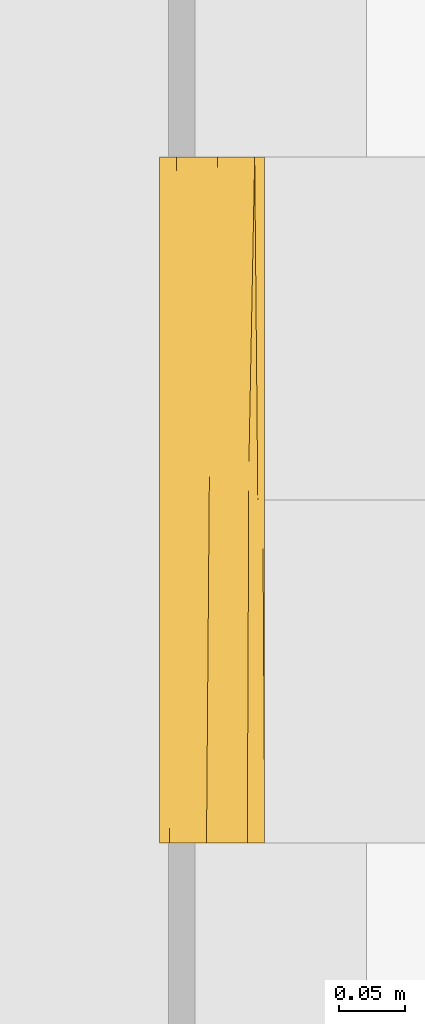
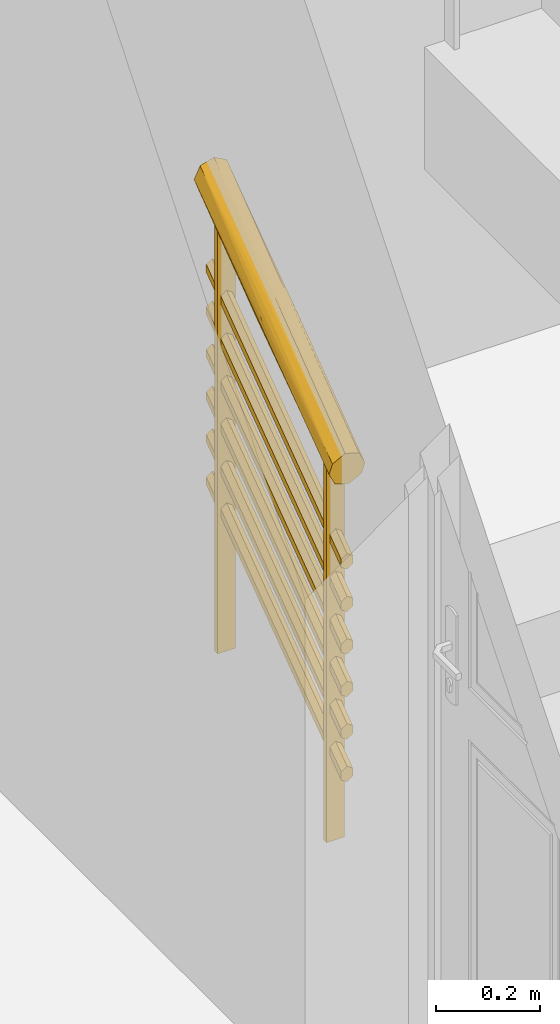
# One storey, part 15 of 20: 1 railing, 1 element without a shape of its own.
"""IFC2X3 building model written with IfcOpenShell, lengths in metres."""

from ifc_helpers import new_model, entity, si_unit, converted_unit, derived_unit, direction, frame, origin, place, context, subcontext, project, spatial, faceted_brep, element, aggregate, save


model = new_model("IFC2X3")

# Units and contexts
model_context = context("Model", 3, precision=1e-05, world=origin(), true_north=direction((6.12303176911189e-17, 1.0)))
body_context = subcontext(model_context, "Body", "Model", "MODEL_VIEW")
ifc_project = project(units=[si_unit("LENGTHUNIT", "METRE"), si_unit("AREAUNIT", "SQUARE_METRE"), si_unit("VOLUMEUNIT", "CUBIC_METRE"), converted_unit("PLANEANGLEUNIT", "DEGREE", entity("IfcRatioMeasure", 0.0174532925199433), si_unit("PLANEANGLEUNIT", "RADIAN"), dimensions=[0, 0, 0, 0, 0, 0, 0]), si_unit("MASSUNIT", "GRAM", prefix="KILO"), derived_unit("MASSDENSITYUNIT", [(si_unit("MASSUNIT", "GRAM", prefix="KILO"), 1), (si_unit("LENGTHUNIT", "METRE"), -3)]), derived_unit("MOMENTOFINERTIAUNIT", [(si_unit("LENGTHUNIT", "METRE"), 4)]), si_unit("TIMEUNIT", "SECOND"), si_unit("FREQUENCYUNIT", "HERTZ"), si_unit("THERMODYNAMICTEMPERATUREUNIT", "DEGREE_CELSIUS"), derived_unit("THERMALTRANSMITTANCEUNIT", [(si_unit("MASSUNIT", "GRAM", prefix="KILO"), 1), (si_unit("THERMODYNAMICTEMPERATUREUNIT", "KELVIN"), -1), (si_unit("TIMEUNIT", "SECOND"), -3)]), derived_unit("VOLUMETRICFLOWRATEUNIT", [(si_unit("LENGTHUNIT", "METRE"), 3), (si_unit("TIMEUNIT", "SECOND"), -1)]), si_unit("ELECTRICCURRENTUNIT", "AMPERE"), si_unit("ELECTRICVOLTAGEUNIT", "VOLT"), si_unit("POWERUNIT", "WATT"), si_unit("FORCEUNIT", "NEWTON", prefix="KILO"), si_unit("ILLUMINANCEUNIT", "LUX"), si_unit("LUMINOUSFLUXUNIT", "LUMEN"), si_unit("LUMINOUSINTENSITYUNIT", "CANDELA"), derived_unit("USERDEFINED", [(si_unit("MASSUNIT", "GRAM", prefix="KILO"), -1), (si_unit("LENGTHUNIT", "METRE"), -2), (si_unit("TIMEUNIT", "SECOND"), 3), (si_unit("LUMINOUSFLUXUNIT", "LUMEN"), 1)]), derived_unit("LINEARVELOCITYUNIT", [(si_unit("LENGTHUNIT", "METRE"), 1), (si_unit("TIMEUNIT", "SECOND"), -1)]), si_unit("PRESSUREUNIT", "PASCAL"), derived_unit("USERDEFINED", [(si_unit("LENGTHUNIT", "METRE"), -2), (si_unit("MASSUNIT", "GRAM", prefix="KILO"), 1), (si_unit("TIMEUNIT", "SECOND"), -2)]), derived_unit("LINEARFORCEUNIT", [(si_unit("MASSUNIT", "GRAM", prefix="KILO"), 1), (si_unit("LENGTHUNIT", "METRE"), 1), (si_unit("TIMEUNIT", "SECOND"), -2), (si_unit("LENGTHUNIT", "METRE"), -1)]), derived_unit("PLANARFORCEUNIT", [(si_unit("MASSUNIT", "GRAM", prefix="KILO"), 1), (si_unit("LENGTHUNIT", "METRE"), 1), (si_unit("TIMEUNIT", "SECOND"), -2), (si_unit("LENGTHUNIT", "METRE"), -2)])], contexts=[model_context])

# Site, building, storey
site_placement = place(None, origin())
site = spatial("IfcSite", under=ifc_project, at=site_placement, Name="Surface", CompositionType="ELEMENT")
building_placement = place(site_placement, origin())
building = spatial("IfcBuilding", under=site, at=building_placement, CompositionType="ELEMENT")
storey_placement = place(building_placement, origin())
storey = spatial("IfcBuildingStorey", under=building, at=storey_placement, Name="Niveau rdc", CompositionType="ELEMENT", Elevation=-1.94916083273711e-14)

# Stair, railing
stair_placement = place(storey_placement, origin())
stair = element("IfcStair", 1, at=stair_placement, inside=storey, Name="Escalier coulé sur place:Escalier", ObjectType="Escalier coulé sur place:Monobloc", ShapeType="NOTDEFINED")
railing_placement = place(stair_placement, frame((1.85578458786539, 5.44723837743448, 0.189285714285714)))
railing = element("IfcRailing", 2, at=railing_placement, Name="Garde-corps:Type Bateau", ObjectType="Garde-corps:Type Bateau", PredefinedType="NOTDEFINED", context=body_context, shape_type="Brep", body=[
    faceted_brep([(0.0615952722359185, 0.476000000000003, 1.20487235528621), (0.0215952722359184, 0.476000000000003, 1.20487235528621), (0.0215952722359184, 0.464000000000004, 1.20487235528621), (0.0615952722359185, 0.464000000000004, 1.20487235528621), (0.0615952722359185, 0.476000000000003, 0.189285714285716), (0.0615952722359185, 0.464000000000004, 0.189285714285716), (0.0215952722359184, 0.464000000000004, 0.189285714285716), (0.0215952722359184, 0.476000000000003, 0.189285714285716)], [[[0, 1, 2, 3]], [[4, 5, 6, 7]], [[3, 5, 4, 0]], [[2, 6, 5, 3]], [[1, 7, 6, 2]], [[0, 4, 7, 1]]]),
    faceted_brep([(0.061595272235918, 0.0560000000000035, 0.899103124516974), (0.0215952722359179, 0.0560000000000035, 0.899103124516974), (0.0215952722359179, 0.0440000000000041, 0.899103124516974), (0.061595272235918, 0.0440000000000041, 0.899103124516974), (0.061595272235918, 0.0560000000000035, 0.0), (0.061595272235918, 0.0440000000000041, 0.0), (0.0215952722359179, 0.0440000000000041, 0.0), (0.0215952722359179, 0.0560000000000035, 0.0)], [[[0, 1, 2, 3]], [[4, 5, 6, 7]], [[3, 5, 4, 0]], [[2, 6, 5, 3]], [[1, 7, 6, 2]], [[0, 4, 7, 1]]]),
    faceted_brep([(0.0451172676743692, 0.0, 0.665407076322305), (0.0486392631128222, 0.0, 0.667922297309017), (0.0516124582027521, 0.0, 0.670045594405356), (0.0545856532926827, 0.0, 0.672168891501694), (0.0545856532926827, 0.0, 0.676807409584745), (0.0545856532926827, 0.0, 0.681445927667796), (0.0545856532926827, 0.0, 0.686084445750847), (0.0545856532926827, 0.0, 0.690722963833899), (0.0513380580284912, 0.0, 0.693042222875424), (0.0480904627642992, 0.0, 0.69536148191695), (0.0448428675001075, 0.0, 0.697680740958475), (0.0415952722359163, 0.0, 0.700000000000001), (0.0380732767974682, 0.0, 0.697484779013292), (0.0351000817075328, 0.0, 0.69536148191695), (0.0318524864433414, 0.0, 0.693042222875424), (0.0286048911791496, 0.0, 0.690722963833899), (0.0286048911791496, 0.0, 0.686084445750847), (0.0286048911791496, 0.0, 0.681445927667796), (0.0286048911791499, 0.0, 0.676807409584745), (0.0286048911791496, 0.0, 0.672168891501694), (0.0318524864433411, 0.0, 0.669849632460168), (0.0351000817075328, 0.0, 0.667530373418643), (0.0380732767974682, 0.0, 0.665407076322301), (0.041595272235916, 0.0, 0.662891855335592), (0.0383476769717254, 0.519999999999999, 1.04378254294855), (0.0351000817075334, 0.519999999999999, 1.04610180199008), (0.0318524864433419, 0.519999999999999, 1.0484210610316), (0.0286048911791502, 0.519999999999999, 1.05074032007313), (0.0286048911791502, 0.519999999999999, 1.05537883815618), (0.0286048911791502, 0.519999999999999, 1.06001735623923), (0.0286048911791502, 0.519999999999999, 1.06465587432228), (0.0286048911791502, 0.519999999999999, 1.06929439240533), (0.0315780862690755, 0.519999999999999, 1.07141768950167), (0.0345512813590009, 0.519999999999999, 1.073540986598), (0.038073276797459, 0.519999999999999, 1.07605620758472), (0.0415952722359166, 0.519999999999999, 1.07857142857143), (0.0451172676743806, 0.519999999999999, 1.07605620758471), (0.0480904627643, 0.519999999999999, 1.07393291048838), (0.0513380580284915, 0.519999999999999, 1.07161365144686), (0.0545856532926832, 0.519999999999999, 1.06929439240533), (0.0545856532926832, 0.519999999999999, 1.06465587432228), (0.0545856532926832, 0.519999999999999, 1.06001735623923), (0.0545856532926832, 0.519999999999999, 1.05537883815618), (0.0545856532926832, 0.519999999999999, 1.05074032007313), (0.0513380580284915, 0.519999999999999, 1.0484210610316), (0.0480904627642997, 0.519999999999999, 1.04610180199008), (0.0451172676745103, 0.519999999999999, 1.04397850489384), (0.0415952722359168, 0.519999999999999, 1.04146328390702)], [[[0, 1, 2, 3, 4, 5, 6, 7, 8, 9, 10, 11, 12, 13, 14, 15, 16, 17, 18, 19, 20, 21, 22, 23]], [[24, 25, 26, 27, 28, 29, 30, 31, 32, 33, 34, 35, 36, 37, 38, 39, 40, 41, 42, 43, 44, 45, 46, 47]], [[40, 39, 7, 6, 5, 4, 3, 43, 42, 41]], [[45, 44, 43, 3, 2, 1, 0, 23, 47, 46]], [[35, 11, 10, 9, 8, 7, 39, 38, 37, 36]], [[15, 14, 13, 12, 11, 35, 34, 33, 32, 31]], [[21, 20, 19, 27, 26, 25, 24, 47, 23, 22]], [[18, 17, 16, 15, 31, 30, 29, 28, 27, 19]]]),
    faceted_brep([(0.0451172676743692, 0.0, 0.565407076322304), (0.0486392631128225, 0.0, 0.567922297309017), (0.0516124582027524, 0.0, 0.570045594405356), (0.0545856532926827, 0.0, 0.572168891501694), (0.0545856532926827, 0.0, 0.576807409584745), (0.0545856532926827, 0.0, 0.581445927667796), (0.0545856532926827, 0.0, 0.586084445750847), (0.0545856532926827, 0.0, 0.590722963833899), (0.0513380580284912, 0.0, 0.593042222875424), (0.0480904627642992, 0.0, 0.59536148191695), (0.0448428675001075, 0.0, 0.597680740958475), (0.0415952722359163, 0.0, 0.600000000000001), (0.0380732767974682, 0.0, 0.597484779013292), (0.0351000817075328, 0.0, 0.59536148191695), (0.0318524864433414, 0.0, 0.593042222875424), (0.0286048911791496, 0.0, 0.590722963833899), (0.0286048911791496, 0.0, 0.586084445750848), (0.0286048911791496, 0.0, 0.581445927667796), (0.0286048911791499, 0.0, 0.576807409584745), (0.0286048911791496, 0.0, 0.572168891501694), (0.0318524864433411, 0.0, 0.569849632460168), (0.0351000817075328, 0.0, 0.567530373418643), (0.0380732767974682, 0.0, 0.565407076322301), (0.041595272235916, 0.0, 0.562891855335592), (0.0383476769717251, 0.519999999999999, 0.943782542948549), (0.0351000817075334, 0.519999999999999, 0.946101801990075), (0.0318524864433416, 0.519999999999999, 0.948421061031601), (0.0286048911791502, 0.519999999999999, 0.950740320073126), (0.0286048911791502, 0.519999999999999, 0.955378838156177), (0.0286048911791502, 0.519999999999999, 0.960017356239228), (0.0286048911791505, 0.519999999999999, 0.96465587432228), (0.0286048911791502, 0.519999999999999, 0.969294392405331), (0.0315780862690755, 0.519999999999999, 0.971417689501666), (0.0345512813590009, 0.519999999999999, 0.973540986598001), (0.038073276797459, 0.519999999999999, 0.976056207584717), (0.0415952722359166, 0.519999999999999, 0.978571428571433), (0.0451172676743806, 0.519999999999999, 0.976056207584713), (0.0480904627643, 0.519999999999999, 0.973932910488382), (0.0513380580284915, 0.519999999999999, 0.971613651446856), (0.0545856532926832, 0.519999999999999, 0.969294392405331), (0.0545856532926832, 0.519999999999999, 0.96465587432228), (0.0545856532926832, 0.519999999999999, 0.960017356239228), (0.0545856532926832, 0.519999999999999, 0.955378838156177), (0.0545856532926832, 0.519999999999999, 0.950740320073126), (0.0513380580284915, 0.519999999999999, 0.948421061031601), (0.0480904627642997, 0.519999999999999, 0.946101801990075), (0.0451172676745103, 0.519999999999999, 0.943978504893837), (0.0415952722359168, 0.519999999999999, 0.941463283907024)], [[[0, 1, 2, 3, 4, 5, 6, 7, 8, 9, 10, 11, 12, 13, 14, 15, 16, 17, 18, 19, 20, 21, 22, 23]], [[24, 25, 26, 27, 28, 29, 30, 31, 32, 33, 34, 35, 36, 37, 38, 39, 40, 41, 42, 43, 44, 45, 46, 47]], [[40, 39, 7, 6, 5, 4, 3, 43, 42, 41]], [[45, 44, 43, 3, 2, 1, 0, 23, 47, 46]], [[35, 11, 10, 9, 8, 7, 39, 38, 37, 36]], [[15, 14, 13, 12, 11, 35, 34, 33, 32, 31]], [[21, 20, 19, 27, 26, 25, 24, 47, 23, 22]], [[18, 17, 16, 15, 31, 30, 29, 28, 27, 19]]]),
    faceted_brep([(0.0451172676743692, 0.0, 0.465407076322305), (0.0486392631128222, 0.0, 0.467922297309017), (0.0516124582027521, 0.0, 0.470045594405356), (0.0545856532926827, 0.0, 0.472168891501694), (0.0545856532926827, 0.0, 0.476807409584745), (0.0545856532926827, 0.0, 0.481445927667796), (0.0545856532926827, 0.0, 0.486084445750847), (0.0545856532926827, 0.0, 0.490722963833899), (0.0513380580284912, 0.0, 0.493042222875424), (0.0480904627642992, 0.0, 0.49536148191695), (0.0448428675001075, 0.0, 0.497680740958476), (0.0415952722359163, 0.0, 0.500000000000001), (0.0380732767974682, 0.0, 0.497484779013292), (0.0351000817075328, 0.0, 0.49536148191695), (0.0318524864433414, 0.0, 0.493042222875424), (0.0286048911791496, 0.0, 0.490722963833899), (0.0286048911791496, 0.0, 0.486084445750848), (0.0286048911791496, 0.0, 0.481445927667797), (0.0286048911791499, 0.0, 0.476807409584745), (0.0286048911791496, 0.0, 0.472168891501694), (0.0318524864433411, 0.0, 0.469849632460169), (0.0351000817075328, 0.0, 0.467530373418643), (0.0380732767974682, 0.0, 0.465407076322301), (0.041595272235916, 0.0, 0.462891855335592), (0.0383476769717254, 0.519999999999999, 0.843782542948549), (0.0351000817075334, 0.519999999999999, 0.846101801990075), (0.0318524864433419, 0.519999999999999, 0.848421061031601), (0.0286048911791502, 0.519999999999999, 0.850740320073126), (0.0286048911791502, 0.519999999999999, 0.855378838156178), (0.0286048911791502, 0.519999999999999, 0.860017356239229), (0.0286048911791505, 0.519999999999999, 0.86465587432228), (0.0286048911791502, 0.519999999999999, 0.869294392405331), (0.0315780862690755, 0.519999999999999, 0.871417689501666), (0.0345512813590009, 0.519999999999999, 0.873540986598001), (0.038073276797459, 0.519999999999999, 0.876056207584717), (0.0415952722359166, 0.519999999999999, 0.878571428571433), (0.0451172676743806, 0.519999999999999, 0.876056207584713), (0.0480904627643, 0.519999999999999, 0.873932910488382), (0.0513380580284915, 0.519999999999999, 0.871613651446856), (0.0545856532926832, 0.519999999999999, 0.869294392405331), (0.0545856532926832, 0.519999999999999, 0.86465587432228), (0.0545856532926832, 0.519999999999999, 0.860017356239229), (0.0545856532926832, 0.519999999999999, 0.855378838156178), (0.0545856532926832, 0.519999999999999, 0.850740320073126), (0.0513380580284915, 0.519999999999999, 0.848421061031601), (0.0480904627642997, 0.519999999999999, 0.846101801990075), (0.0451172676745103, 0.519999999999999, 0.843978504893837), (0.0415952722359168, 0.519999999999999, 0.841463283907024)], [[[0, 1, 2, 3, 4, 5, 6, 7, 8, 9, 10, 11, 12, 13, 14, 15, 16, 17, 18, 19, 20, 21, 22, 23]], [[24, 25, 26, 27, 28, 29, 30, 31, 32, 33, 34, 35, 36, 37, 38, 39, 40, 41, 42, 43, 44, 45, 46, 47]], [[40, 39, 7, 6, 5, 4, 3, 43, 42, 41]], [[45, 44, 43, 3, 2, 1, 0, 23, 47, 46]], [[35, 11, 10, 9, 8, 7, 39, 38, 37, 36]], [[15, 14, 13, 12, 11, 35, 34, 33, 32, 31]], [[21, 20, 19, 27, 26, 25, 24, 47, 23, 22]], [[18, 17, 16, 15, 31, 30, 29, 28, 27, 19]]]),
    faceted_brep([(0.0451172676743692, 0.0, 0.365407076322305), (0.0486392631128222, 0.0, 0.367922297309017), (0.0516124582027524, 0.0, 0.370045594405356), (0.0545856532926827, 0.0, 0.372168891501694), (0.0545856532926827, 0.0, 0.376807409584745), (0.0545856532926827, 0.0, 0.381445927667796), (0.0545856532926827, 0.0, 0.386084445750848), (0.0545856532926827, 0.0, 0.390722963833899), (0.0513380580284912, 0.0, 0.393042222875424), (0.0480904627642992, 0.0, 0.39536148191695), (0.0448428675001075, 0.0, 0.397680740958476), (0.0415952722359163, 0.0, 0.400000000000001), (0.0380732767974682, 0.0, 0.397484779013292), (0.0351000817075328, 0.0, 0.39536148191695), (0.0318524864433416, 0.0, 0.393042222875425), (0.0286048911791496, 0.0, 0.390722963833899), (0.0286048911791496, 0.0, 0.386084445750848), (0.0286048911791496, 0.0, 0.381445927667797), (0.0286048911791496, 0.0, 0.376807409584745), (0.0286048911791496, 0.0, 0.372168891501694), (0.0318524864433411, 0.0, 0.369849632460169), (0.0351000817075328, 0.0, 0.367530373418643), (0.0380732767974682, 0.0, 0.365407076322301), (0.041595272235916, 0.0, 0.362891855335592), (0.0383476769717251, 0.519999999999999, 0.743782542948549), (0.0351000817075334, 0.519999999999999, 0.746101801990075), (0.0318524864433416, 0.519999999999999, 0.748421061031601), (0.0286048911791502, 0.519999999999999, 0.750740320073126), (0.0286048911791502, 0.519999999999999, 0.755378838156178), (0.0286048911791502, 0.519999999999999, 0.760017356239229), (0.0286048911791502, 0.519999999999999, 0.76465587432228), (0.0286048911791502, 0.519999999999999, 0.769294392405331), (0.0315780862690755, 0.519999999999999, 0.771417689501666), (0.0345512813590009, 0.519999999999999, 0.773540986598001), (0.038073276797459, 0.519999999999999, 0.776056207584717), (0.0415952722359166, 0.519999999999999, 0.778571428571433), (0.0451172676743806, 0.519999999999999, 0.776056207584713), (0.0480904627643, 0.519999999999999, 0.773932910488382), (0.0513380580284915, 0.519999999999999, 0.771613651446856), (0.0545856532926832, 0.519999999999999, 0.769294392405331), (0.0545856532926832, 0.519999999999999, 0.76465587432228), (0.0545856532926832, 0.519999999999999, 0.760017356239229), (0.0545856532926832, 0.519999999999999, 0.755378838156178), (0.0545856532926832, 0.519999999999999, 0.750740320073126), (0.0513380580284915, 0.519999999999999, 0.748421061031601), (0.0480904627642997, 0.519999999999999, 0.746101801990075), (0.04511726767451, 0.519999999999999, 0.743978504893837), (0.0415952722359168, 0.519999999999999, 0.741463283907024)], [[[0, 1, 2, 3, 4, 5, 6, 7, 8, 9, 10, 11, 12, 13, 14, 15, 16, 17, 18, 19, 20, 21, 22, 23]], [[24, 25, 26, 27, 28, 29, 30, 31, 32, 33, 34, 35, 36, 37, 38, 39, 40, 41, 42, 43, 44, 45, 46, 47]], [[40, 39, 7, 6, 5, 4, 3, 43, 42, 41]], [[45, 44, 43, 3, 2, 1, 0, 23, 47, 46]], [[35, 11, 10, 9, 8, 7, 39, 38, 37, 36]], [[15, 14, 13, 12, 11, 35, 34, 33, 32, 31]], [[21, 20, 19, 27, 26, 25, 24, 47, 23, 22]], [[18, 17, 16, 15, 31, 30, 29, 28, 27, 19]]]),
    faceted_brep([(0.0451172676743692, 0.0, 0.265407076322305), (0.0486392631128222, 0.0, 0.267922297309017), (0.0516124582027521, 0.0, 0.270045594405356), (0.0545856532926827, 0.0, 0.272168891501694), (0.0545856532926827, 0.0, 0.276807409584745), (0.0545856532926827, 0.0, 0.281445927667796), (0.0545856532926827, 0.0, 0.286084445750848), (0.0545856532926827, 0.0, 0.290722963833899), (0.0513380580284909, 0.0, 0.293042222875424), (0.0480904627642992, 0.0, 0.29536148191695), (0.0448428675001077, 0.0, 0.297680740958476), (0.0415952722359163, 0.0, 0.300000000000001), (0.0380732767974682, 0.0, 0.297484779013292), (0.0351000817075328, 0.0, 0.29536148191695), (0.0318524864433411, 0.0, 0.293042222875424), (0.0286048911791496, 0.0, 0.290722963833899), (0.0286048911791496, 0.0, 0.286084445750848), (0.0286048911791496, 0.0, 0.281445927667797), (0.0286048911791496, 0.0, 0.276807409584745), (0.0286048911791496, 0.0, 0.272168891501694), (0.0318524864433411, 0.0, 0.269849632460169), (0.0351000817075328, 0.0, 0.267530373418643), (0.0380732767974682, 0.0, 0.265407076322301), (0.041595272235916, 0.0, 0.262891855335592), (0.0383476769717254, 0.519999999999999, 0.643782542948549), (0.0351000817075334, 0.519999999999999, 0.646101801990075), (0.0318524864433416, 0.519999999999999, 0.648421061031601), (0.0286048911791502, 0.519999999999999, 0.650740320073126), (0.0286048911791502, 0.519999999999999, 0.655378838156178), (0.0286048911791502, 0.519999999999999, 0.660017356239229), (0.0286048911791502, 0.519999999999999, 0.66465587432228), (0.0286048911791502, 0.519999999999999, 0.669294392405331), (0.0315780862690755, 0.519999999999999, 0.671417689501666), (0.0345512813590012, 0.519999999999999, 0.673540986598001), (0.0380732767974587, 0.519999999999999, 0.676056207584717), (0.0415952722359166, 0.519999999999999, 0.678571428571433), (0.0451172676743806, 0.519999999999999, 0.676056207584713), (0.0480904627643, 0.519999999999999, 0.673932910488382), (0.0513380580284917, 0.519999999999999, 0.671613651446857), (0.0545856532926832, 0.519999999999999, 0.669294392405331), (0.0545856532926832, 0.519999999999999, 0.66465587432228), (0.0545856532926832, 0.519999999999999, 0.660017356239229), (0.0545856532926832, 0.519999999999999, 0.655378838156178), (0.0545856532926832, 0.519999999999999, 0.650740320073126), (0.0513380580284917, 0.519999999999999, 0.648421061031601), (0.0480904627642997, 0.519999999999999, 0.646101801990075), (0.0451172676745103, 0.519999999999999, 0.643978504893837), (0.0415952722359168, 0.519999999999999, 0.641463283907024)], [[[0, 1, 2, 3, 4, 5, 6, 7, 8, 9, 10, 11, 12, 13, 14, 15, 16, 17, 18, 19, 20, 21, 22, 23]], [[24, 25, 26, 27, 28, 29, 30, 31, 32, 33, 34, 35, 36, 37, 38, 39, 40, 41, 42, 43, 44, 45, 46, 47]], [[40, 39, 7, 6, 5, 4, 3, 43, 42, 41]], [[45, 44, 43, 3, 2, 1, 0, 23, 47, 46]], [[35, 11, 10, 9, 8, 7, 39, 38, 37, 36]], [[15, 14, 13, 12, 11, 35, 34, 33, 32, 31]], [[21, 20, 19, 27, 26, 25, 24, 47, 23, 22]], [[18, 17, 16, 15, 31, 30, 29, 28, 27, 19]]]),
    faceted_brep([(0.0451172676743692, 0.0, 0.165407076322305), (0.0486392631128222, 0.0, 0.167922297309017), (0.0516124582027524, 0.0, 0.170045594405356), (0.0545856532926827, 0.0, 0.172168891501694), (0.0545856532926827, 0.0, 0.176807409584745), (0.0545856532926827, 0.0, 0.181445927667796), (0.0545856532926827, 0.0, 0.186084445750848), (0.0545856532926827, 0.0, 0.190722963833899), (0.0513380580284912, 0.0, 0.193042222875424), (0.0480904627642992, 0.0, 0.19536148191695), (0.0448428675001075, 0.0, 0.197680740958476), (0.0415952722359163, 0.0, 0.200000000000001), (0.0380732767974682, 0.0, 0.197484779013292), (0.0351000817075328, 0.0, 0.19536148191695), (0.0318524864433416, 0.0, 0.193042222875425), (0.0286048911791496, 0.0, 0.190722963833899), (0.0286048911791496, 0.0, 0.186084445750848), (0.0286048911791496, 0.0, 0.181445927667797), (0.0286048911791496, 0.0, 0.176807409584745), (0.0286048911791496, 0.0, 0.172168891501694), (0.0318524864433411, 0.0, 0.169849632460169), (0.0351000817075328, 0.0, 0.167530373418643), (0.0380732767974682, 0.0, 0.165407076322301), (0.041595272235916, 0.0, 0.162891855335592), (0.0383476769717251, 0.519999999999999, 0.54378254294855), (0.0351000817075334, 0.519999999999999, 0.546101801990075), (0.0318524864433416, 0.519999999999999, 0.548421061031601), (0.0286048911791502, 0.519999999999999, 0.550740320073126), (0.0286048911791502, 0.519999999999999, 0.555378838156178), (0.0286048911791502, 0.519999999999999, 0.560017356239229), (0.0286048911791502, 0.519999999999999, 0.56465587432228), (0.0286048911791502, 0.519999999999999, 0.569294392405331), (0.0315780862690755, 0.519999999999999, 0.571417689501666), (0.0345512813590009, 0.519999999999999, 0.573540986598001), (0.038073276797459, 0.519999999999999, 0.576056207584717), (0.0415952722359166, 0.519999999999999, 0.578571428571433), (0.0451172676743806, 0.519999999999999, 0.576056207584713), (0.0480904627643, 0.519999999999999, 0.573932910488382), (0.0513380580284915, 0.519999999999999, 0.571613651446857), (0.0545856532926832, 0.519999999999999, 0.569294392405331), (0.0545856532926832, 0.519999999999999, 0.56465587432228), (0.0545856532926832, 0.519999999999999, 0.560017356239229), (0.0545856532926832, 0.519999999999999, 0.555378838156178), (0.0545856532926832, 0.519999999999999, 0.550740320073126), (0.0513380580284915, 0.519999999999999, 0.548421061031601), (0.0480904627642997, 0.519999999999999, 0.546101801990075), (0.04511726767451, 0.519999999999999, 0.543978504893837), (0.0415952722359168, 0.519999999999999, 0.541463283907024)], [[[0, 1, 2, 3, 4, 5, 6, 7, 8, 9, 10, 11, 12, 13, 14, 15, 16, 17, 18, 19, 20, 21, 22, 23]], [[24, 25, 26, 27, 28, 29, 30, 31, 32, 33, 34, 35, 36, 37, 38, 39, 40, 41, 42, 43, 44, 45, 46, 47]], [[40, 39, 7, 6, 5, 4, 3, 43, 42, 41]], [[45, 44, 43, 3, 2, 1, 0, 23, 47, 46]], [[35, 11, 10, 9, 8, 7, 39, 38, 37, 36]], [[15, 14, 13, 12, 11, 35, 34, 33, 32, 31]], [[21, 20, 19, 27, 26, 25, 24, 47, 23, 22]], [[18, 17, 16, 15, 31, 30, 29, 28, 27, 19]]]),
    faceted_brep([(0.0683604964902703, 0.0, 0.927576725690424), (0.0528873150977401, 0.0, 0.932240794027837), (0.03741413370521, 0.0, 0.93690486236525), (0.0303692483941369, 0.0, 0.933131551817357), (0.023324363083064, 0.0, 0.929358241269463), (0.00923459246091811, 0.0, 0.921811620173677), (0.005414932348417, 0.0, 0.910905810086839), (0.0015952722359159, 0.0, 0.900000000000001), (0.00821266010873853, 0.0, 0.88621163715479), (0.0148300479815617, 0.0, 0.872423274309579), (0.0303032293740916, 0.0, 0.867759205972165), (0.0457764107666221, 0.0, 0.863095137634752), (0.0598661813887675, 0.0, 0.870641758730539), (0.0669110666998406, 0.0, 0.874415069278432), (0.0739559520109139, 0.0, 0.878188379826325), (0.0777756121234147, 0.0, 0.889094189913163), (0.0815952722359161, 0.0, 0.900000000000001), (0.0749778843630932, 0.0, 0.913788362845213), (0.0716691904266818, 0.0, 0.920682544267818), (0.0457764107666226, 0.519999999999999, 1.31547629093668), (0.0598661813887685, 0.519999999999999, 1.3079296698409), (0.0739559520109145, 0.519999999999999, 1.30038304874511), (0.0777756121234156, 0.519999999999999, 1.28947723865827), (0.0815952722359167, 0.519999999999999, 1.27857142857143), (0.0749778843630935, 0.519999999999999, 1.26478306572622), (0.0683604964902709, 0.519999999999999, 1.25099470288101), (0.0528873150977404, 0.52, 1.2463306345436), (0.0374141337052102, 0.519999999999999, 1.24166656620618), (0.0233243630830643, 0.519999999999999, 1.24921318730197), (0.0162794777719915, 0.519999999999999, 1.25298649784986), (0.00923459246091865, 0.519999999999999, 1.25675980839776), (0.00541493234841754, 0.519999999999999, 1.2676656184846), (0.00159527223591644, 0.519999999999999, 1.27857142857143), (0.00821266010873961, 0.519999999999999, 1.29235979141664), (0.0148300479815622, 0.519999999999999, 1.30614815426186), (0.0303032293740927, 0.519999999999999, 1.31081222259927), (0.0057377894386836, 0.282057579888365, 1.08889886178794), (0.0650397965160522, 0.261658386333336, 1.06042695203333), (0.0551768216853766, 0.230325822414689, 1.03277863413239), (0.044416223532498, 0.290782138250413, 1.0746800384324), (0.0232692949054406, 0.236274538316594, 1.03902854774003), (0.0337356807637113, 0.255762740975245, 1.0498161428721), (0.0730300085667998, 0.288204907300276, 1.08687206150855), (0.0782813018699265, 0.251688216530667, 1.06844545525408), (0.0815952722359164, 0.290156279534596, 1.11124014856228), (0.0815952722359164, 0.229843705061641, 1.06733126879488), (0.00159527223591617, 0.290156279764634, 1.11124014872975), (0.00159527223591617, 0.229843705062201, 1.06733126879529), (0.0118140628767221, 0.259139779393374, 1.06388647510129), (0.0763119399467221, 0.261339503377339, 1.1086928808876), (0.069548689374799, 0.287127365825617, 1.13557783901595), (0.0606408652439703, 0.225349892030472, 1.09669144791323), (0.0505849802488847, 0.266718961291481, 1.13033611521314), (0.0252502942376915, 0.259437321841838, 1.12274477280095), (0.0157936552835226, 0.228324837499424, 1.09458163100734), (0.0396253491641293, 0.281374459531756, 1.14190990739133), (0.0802717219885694, 0.221328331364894, 1.07059865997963), (0.00846883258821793, 0.289879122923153, 1.13183712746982), (0.00386713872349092, 0.266059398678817, 1.10602500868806)], [[[0, 1, 2, 3, 4, 5, 6, 7, 8, 9, 10, 11, 12, 13, 14, 15, 16, 17, 18]], [[19, 20, 21, 22, 23, 24, 25, 26, 27, 28, 29, 30, 31, 32, 33, 34, 35]], [[30, 36, 31]], [[26, 37, 38]], [[39, 38, 11]], [[10, 40, 41]], [[40, 28, 41]], [[13, 12, 37]], [[25, 42, 37]], [[43, 23, 44, 45]], [[37, 12, 38]], [[39, 11, 41]], [[14, 43, 15]], [[36, 8, 46]], [[8, 7, 47, 46]], [[37, 42, 13]], [[29, 48, 30]], [[43, 24, 23]], [[37, 26, 25]], [[13, 42, 14]], [[42, 25, 24]], [[42, 24, 43]], [[27, 26, 39]], [[38, 12, 11]], [[45, 16, 15]], [[38, 39, 26]], [[27, 39, 41]], [[27, 41, 28]], [[10, 41, 11]], [[29, 28, 40]], [[40, 10, 9]], [[40, 9, 48]], [[40, 48, 29]], [[48, 9, 8]], [[8, 36, 48]], [[46, 32, 31]], [[42, 43, 14]], [[15, 43, 45]], [[48, 36, 30]], [[31, 36, 46]], [[17, 49, 18]], [[49, 50, 18]], [[20, 51, 50]], [[52, 51, 20]], [[53, 34, 54]], [[55, 2, 52]], [[4, 53, 54]], [[56, 44, 22]], [[21, 50, 49]], [[44, 23, 22]], [[4, 3, 53]], [[57, 58, 5]], [[34, 57, 54]], [[58, 47, 6]], [[1, 0, 51]], [[18, 50, 0]], [[17, 16, 56]], [[19, 55, 52]], [[22, 21, 49]], [[17, 56, 49]], [[50, 21, 20]], [[49, 56, 22]], [[56, 16, 45, 44]], [[50, 51, 0]], [[1, 51, 52]], [[1, 52, 2]], [[19, 52, 20]], [[3, 2, 55]], [[55, 19, 35]], [[55, 35, 53]], [[55, 53, 3]], [[53, 35, 34]], [[54, 5, 4]], [[5, 54, 57]], [[58, 6, 5]], [[33, 57, 34]], [[32, 58, 33]], [[57, 33, 58]], [[47, 7, 6]], [[58, 32, 46, 47]]]),
])
aggregate(stair, [railing])

save(model, "model.ifc")
